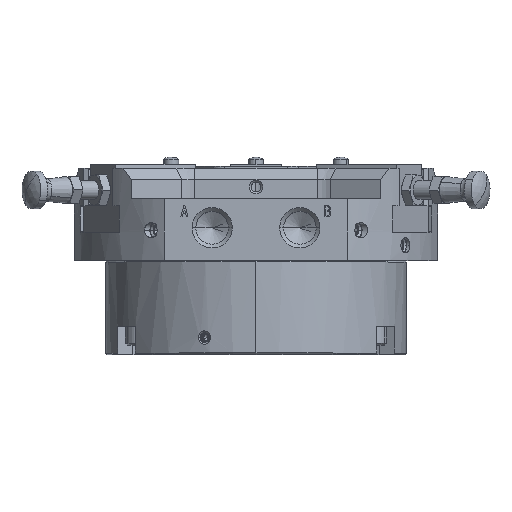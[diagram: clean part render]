
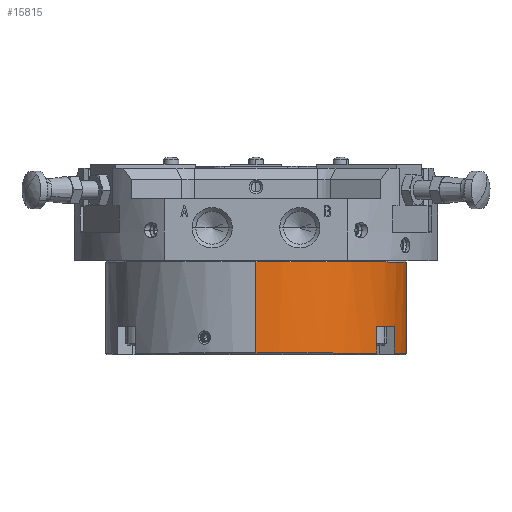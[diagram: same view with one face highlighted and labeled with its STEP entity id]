
A CAD part, top view. The second image highlights one B-rep face of the part: STEP entity #15815.
In plain terms, the highlighted cylindrical face has radius 40 mm (diameter 80 mm), a partial arc.
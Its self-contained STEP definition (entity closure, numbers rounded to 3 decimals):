
#505 = DIRECTION ( 'NONE',  ( 0., 1., 0. ) ) ;
#2512 = LINE ( 'NONE', #32392, #33748 ) ;
#3512 = VERTEX_POINT ( 'NONE', #63930 ) ;
#4764 = VERTEX_POINT ( 'NONE', #50199 ) ;
#5116 = FACE_OUTER_BOUND ( 'NONE', #29363, .T. ) ;
#6286 = VERTEX_POINT ( 'NONE', #46154 ) ;
#8040 = CARTESIAN_POINT ( 'NONE',  ( 0., 24.6, 40. ) ) ;
#8764 = DIRECTION ( 'NONE',  ( 0., 1., 0. ) ) ;
#8889 = EDGE_CURVE ( 'NONE', #6286, #9221, #18279, .T. ) ;
#9221 = VERTEX_POINT ( 'NONE', #55022 ) ;
#10230 = VERTEX_POINT ( 'NONE', #8040 ) ;
#10454 = EDGE_CURVE ( 'NONE', #13495, #4764, #56600, .T. ) ;
#10781 = AXIS2_PLACEMENT_3D ( 'NONE', #50809, #505, #15627 ) ;
#12194 = LINE ( 'NONE', #42434, #44795 ) ;
#12634 = VERTEX_POINT ( 'NONE', #54204 ) ;
#12793 = ORIENTED_EDGE ( 'NONE', *, *, #23789, .F. ) ;
#13495 = VERTEX_POINT ( 'NONE', #31544 ) ;
#14473 = EDGE_CURVE ( 'NONE', #13495, #10230, #52803, .T. ) ;
#14527 = EDGE_CURVE ( 'NONE', #6286, #4764, #2512, .T. ) ;
#15627 = DIRECTION ( 'NONE',  ( 0., 0., 1. ) ) ;
#15815 = ADVANCED_FACE ( 'NONE', ( #5116 ), #45871, .T. ) ;
#16980 = CARTESIAN_POINT ( 'NONE',  ( 0., 26.25, 40. ) ) ;
#17071 = ORIENTED_EDGE ( 'NONE', *, *, #10454, .T. ) ;
#17774 = AXIS2_PLACEMENT_3D ( 'NONE', #48053, #22737, #27967 ) ;
#17958 = DIRECTION ( 'NONE',  ( 0., 1., 0. ) ) ;
#18072 = EDGE_CURVE ( 'NONE', #12634, #9221, #41265, .T. ) ;
#18279 = CIRCLE ( 'NONE', #56064, 40. ) ;
#18943 = CARTESIAN_POINT ( 'NONE',  ( 0., 0.4, 0. ) ) ;
#20921 = VERTEX_POINT ( 'NONE', #63852 ) ;
#22043 = DIRECTION ( 'NONE',  ( 0., 1., 0. ) ) ;
#22737 = DIRECTION ( 'NONE',  ( 0., 1., 0. ) ) ;
#22955 = CIRCLE ( 'NONE', #49275, 40. ) ;
#23789 = EDGE_CURVE ( 'NONE', #10230, #20921, #22955, .T. ) ;
#24225 = EDGE_CURVE ( 'NONE', #12634, #3512, #57725, .T. ) ;
#26014 = DIRECTION ( 'NONE',  ( 0., 1., 0. ) ) ;
#27967 = DIRECTION ( 'NONE',  ( 0., 0., 1. ) ) ;
#29363 = EDGE_LOOP ( 'NONE', ( #41389, #17071, #61829, #44940, #60600, #29705, #51036, #12793 ) ) ;
#29705 = ORIENTED_EDGE ( 'NONE', *, *, #24225, .T. ) ;
#31544 = CARTESIAN_POINT ( 'NONE',  ( 0., 0.4, 40. ) ) ;
#32029 = CARTESIAN_POINT ( 'NONE',  ( 36.771, 26.25, 15.745 ) ) ;
#32392 = CARTESIAN_POINT ( 'NONE',  ( 32.021, 26.25, 23.972 ) ) ;
#33748 = VECTOR ( 'NONE', #62364, 1000. ) ;
#34609 = AXIS2_PLACEMENT_3D ( 'NONE', #18943, #8764, #58097 ) ;
#36544 = CARTESIAN_POINT ( 'NONE',  ( 0., 24.6, 0. ) ) ;
#36969 = DIRECTION ( 'NONE',  ( 0., 1., 0. ) ) ;
#41265 = LINE ( 'NONE', #32029, #46524 ) ;
#41389 = ORIENTED_EDGE ( 'NONE', *, *, #14473, .F. ) ;
#42434 = CARTESIAN_POINT ( 'NONE',  ( 39.591, 26.25, -5.708 ) ) ;
#44243 = DIRECTION ( 'NONE',  ( 0., 0., -1. ) ) ;
#44795 = VECTOR ( 'NONE', #22043, 1000. ) ;
#44889 = DIRECTION ( 'NONE',  ( 0., 1., 0. ) ) ;
#44940 = ORIENTED_EDGE ( 'NONE', *, *, #8889, .T. ) ;
#45220 = CARTESIAN_POINT ( 'NONE',  ( 0., 7.5, 0. ) ) ;
#45270 = VECTOR ( 'NONE', #17958, 1000. ) ;
#45871 = CYLINDRICAL_SURFACE ( 'NONE', #10781, 40. ) ;
#46154 = CARTESIAN_POINT ( 'NONE',  ( 32.021, 7.5, 23.972 ) ) ;
#46423 = DIRECTION ( 'NONE',  ( 0., 0., 1. ) ) ;
#46524 = VECTOR ( 'NONE', #36969, 1000. ) ;
#48053 = CARTESIAN_POINT ( 'NONE',  ( 0., 0.4, 0. ) ) ;
#49275 = AXIS2_PLACEMENT_3D ( 'NONE', #36544, #26014, #46423 ) ;
#50199 = CARTESIAN_POINT ( 'NONE',  ( 32.021, 0.4, 23.972 ) ) ;
#50809 = CARTESIAN_POINT ( 'NONE',  ( 0., 26.25, 0. ) ) ;
#51036 = ORIENTED_EDGE ( 'NONE', *, *, #62260, .T. ) ;
#52803 = LINE ( 'NONE', #16980, #45270 ) ;
#54204 = CARTESIAN_POINT ( 'NONE',  ( 36.771, 0.4, 15.745 ) ) ;
#55022 = CARTESIAN_POINT ( 'NONE',  ( 36.771, 7.5, 15.745 ) ) ;
#56064 = AXIS2_PLACEMENT_3D ( 'NONE', #45220, #44889, #44243 ) ;
#56600 = CIRCLE ( 'NONE', #17774, 40. ) ;
#57725 = CIRCLE ( 'NONE', #34609, 40. ) ;
#58097 = DIRECTION ( 'NONE',  ( 0., 0., 1. ) ) ;
#60600 = ORIENTED_EDGE ( 'NONE', *, *, #18072, .F. ) ;
#61829 = ORIENTED_EDGE ( 'NONE', *, *, #14527, .F. ) ;
#62260 = EDGE_CURVE ( 'NONE', #3512, #20921, #12194, .T. ) ;
#62364 = DIRECTION ( 'NONE',  ( 0., -1., 0. ) ) ;
#63852 = CARTESIAN_POINT ( 'NONE',  ( 39.591, 24.6, -5.708 ) ) ;
#63930 = CARTESIAN_POINT ( 'NONE',  ( 39.591, 0.4, -5.708 ) ) ;
